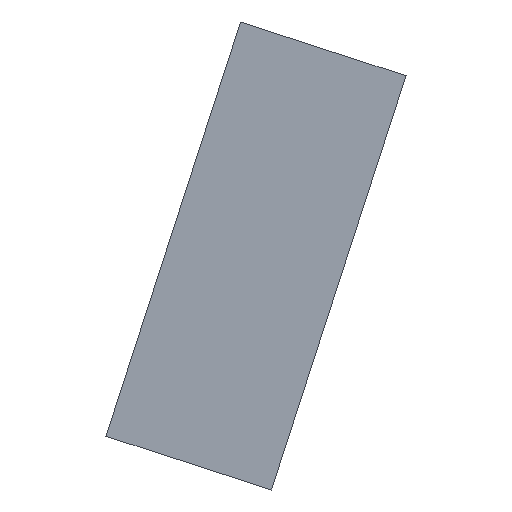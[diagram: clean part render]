
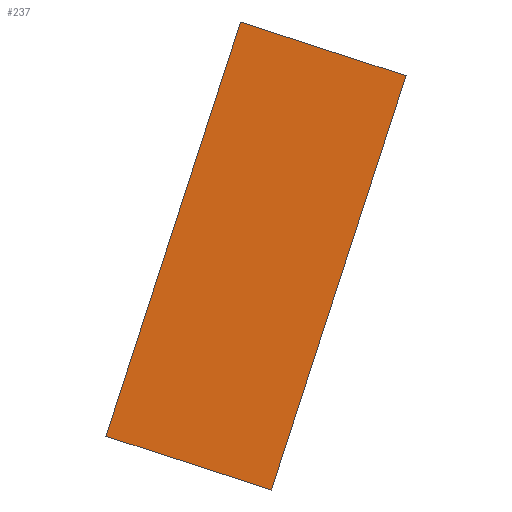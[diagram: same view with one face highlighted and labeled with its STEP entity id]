
A CAD part, front view. The second image highlights one B-rep face of the part: STEP entity #237.
In plain terms, the highlighted planar face has unit normal (0, -1, 0).
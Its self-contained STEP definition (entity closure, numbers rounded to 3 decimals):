
#21 = EDGE_CURVE('',#22,#24,#26,.T.);
#22 = VERTEX_POINT('',#23);
#23 = CARTESIAN_POINT('',(-7.887,-48.,44.519));
#24 = VERTEX_POINT('',#25);
#25 = CARTESIAN_POINT('',(1.384,-48.,73.051));
#26 = SURFACE_CURVE('',#27,(#31,#43),.PCURVE_S1.);
#27 = LINE('',#28,#29);
#28 = CARTESIAN_POINT('',(-7.887,-48.,44.519));
#29 = VECTOR('',#30,1.);
#30 = DIRECTION('',(0.309,0.,0.951));
#31 = PCURVE('',#32,#37);
#32 = PLANE('',#33);
#33 = AXIS2_PLACEMENT_3D('',#34,#35,#36);
#34 = CARTESIAN_POINT('',(-7.887,-48.,44.519));
#35 = DIRECTION('',(0.951,0.,-0.309));
#36 = DIRECTION('',(0.309,0.,0.951));
#37 = DEFINITIONAL_REPRESENTATION('',(#38),#42);
#38 = LINE('',#39,#40);
#39 = CARTESIAN_POINT('',(0.,0.));
#40 = VECTOR('',#41,1.);
#41 = DIRECTION('',(1.,0.));
#42 = ( GEOMETRIC_REPRESENTATION_CONTEXT(2) 
PARAMETRIC_REPRESENTATION_CONTEXT() REPRESENTATION_CONTEXT('2D SPACE',''
  ) );
#43 = PCURVE('',#44,#49);
#44 = PLANE('',#45);
#45 = AXIS2_PLACEMENT_3D('',#46,#47,#48);
#46 = CARTESIAN_POINT('',(-7.887,-48.,44.519));
#47 = DIRECTION('',(0.,1.,0.));
#48 = DIRECTION('',(0.309,0.,0.951));
#49 = DEFINITIONAL_REPRESENTATION('',(#50),#54);
#50 = LINE('',#51,#52);
#51 = CARTESIAN_POINT('',(0.,0.));
#52 = VECTOR('',#53,1.);
#53 = DIRECTION('',(1.,0.));
#54 = ( GEOMETRIC_REPRESENTATION_CONTEXT(2) 
PARAMETRIC_REPRESENTATION_CONTEXT() REPRESENTATION_CONTEXT('2D SPACE',''
  ) );
#72 = PLANE('',#73);
#73 = AXIS2_PLACEMENT_3D('',#74,#75,#76);
#74 = CARTESIAN_POINT('',(-7.887,-48.,44.519));
#75 = DIRECTION('',(0.309,0.,0.951));
#76 = DIRECTION('',(0.951,0.,-0.309));
#126 = PLANE('',#127);
#127 = AXIS2_PLACEMENT_3D('',#128,#129,#130);
#128 = CARTESIAN_POINT('',(1.384,-48.,73.051));
#129 = DIRECTION('',(0.309,0.,0.951));
#130 = DIRECTION('',(0.951,0.,-0.309));
#141 = EDGE_CURVE('',#142,#144,#146,.T.);
#142 = VERTEX_POINT('',#143);
#143 = CARTESIAN_POINT('',(3.526,-48.,40.811));
#144 = VERTEX_POINT('',#145);
#145 = CARTESIAN_POINT('',(12.797,-48.,69.343));
#146 = SURFACE_CURVE('',#147,(#151,#163),.PCURVE_S1.);
#147 = LINE('',#148,#149);
#148 = CARTESIAN_POINT('',(3.526,-48.,40.811));
#149 = VECTOR('',#150,1.);
#150 = DIRECTION('',(0.309,0.,0.951));
#151 = PCURVE('',#152,#157);
#152 = PLANE('',#153);
#153 = AXIS2_PLACEMENT_3D('',#154,#155,#156);
#154 = CARTESIAN_POINT('',(3.526,-48.,40.811));
#155 = DIRECTION('',(0.951,0.,-0.309));
#156 = DIRECTION('',(0.309,0.,0.951));
#157 = DEFINITIONAL_REPRESENTATION('',(#158),#162);
#158 = LINE('',#159,#160);
#159 = CARTESIAN_POINT('',(0.,0.));
#160 = VECTOR('',#161,1.);
#161 = DIRECTION('',(1.,0.));
#162 = ( GEOMETRIC_REPRESENTATION_CONTEXT(2) 
PARAMETRIC_REPRESENTATION_CONTEXT() REPRESENTATION_CONTEXT('2D SPACE',''
  ) );
#163 = PCURVE('',#44,#164);
#164 = DEFINITIONAL_REPRESENTATION('',(#165),#169);
#165 = LINE('',#166,#167);
#166 = CARTESIAN_POINT('',(0.,12.));
#167 = VECTOR('',#168,1.);
#168 = DIRECTION('',(1.,0.));
#169 = ( GEOMETRIC_REPRESENTATION_CONTEXT(2) 
PARAMETRIC_REPRESENTATION_CONTEXT() REPRESENTATION_CONTEXT('2D SPACE',''
  ) );
#237 = ADVANCED_FACE('',(#238),#44,.F.);
#238 = FACE_BOUND('',#239,.F.);
#239 = EDGE_LOOP('',(#240,#261,#262,#283));
#240 = ORIENTED_EDGE('',*,*,#241,.F.);
#241 = EDGE_CURVE('',#22,#142,#242,.T.);
#242 = SURFACE_CURVE('',#243,(#247,#254),.PCURVE_S1.);
#243 = LINE('',#244,#245);
#244 = CARTESIAN_POINT('',(-7.887,-48.,44.519));
#245 = VECTOR('',#246,1.);
#246 = DIRECTION('',(0.951,0.,-0.309));
#247 = PCURVE('',#44,#248);
#248 = DEFINITIONAL_REPRESENTATION('',(#249),#253);
#249 = LINE('',#250,#251);
#250 = CARTESIAN_POINT('',(0.,0.));
#251 = VECTOR('',#252,1.);
#252 = DIRECTION('',(0.,1.));
#253 = ( GEOMETRIC_REPRESENTATION_CONTEXT(2) 
PARAMETRIC_REPRESENTATION_CONTEXT() REPRESENTATION_CONTEXT('2D SPACE',''
  ) );
#254 = PCURVE('',#72,#255);
#255 = DEFINITIONAL_REPRESENTATION('',(#256),#260);
#256 = LINE('',#257,#258);
#257 = CARTESIAN_POINT('',(0.,0.));
#258 = VECTOR('',#259,1.);
#259 = DIRECTION('',(1.,0.));
#260 = ( GEOMETRIC_REPRESENTATION_CONTEXT(2) 
PARAMETRIC_REPRESENTATION_CONTEXT() REPRESENTATION_CONTEXT('2D SPACE',''
  ) );
#261 = ORIENTED_EDGE('',*,*,#21,.T.);
#262 = ORIENTED_EDGE('',*,*,#263,.T.);
#263 = EDGE_CURVE('',#24,#144,#264,.T.);
#264 = SURFACE_CURVE('',#265,(#269,#276),.PCURVE_S1.);
#265 = LINE('',#266,#267);
#266 = CARTESIAN_POINT('',(1.384,-48.,73.051));
#267 = VECTOR('',#268,1.);
#268 = DIRECTION('',(0.951,0.,-0.309));
#269 = PCURVE('',#44,#270);
#270 = DEFINITIONAL_REPRESENTATION('',(#271),#275);
#271 = LINE('',#272,#273);
#272 = CARTESIAN_POINT('',(30.,0.));
#273 = VECTOR('',#274,1.);
#274 = DIRECTION('',(0.,1.));
#275 = ( GEOMETRIC_REPRESENTATION_CONTEXT(2) 
PARAMETRIC_REPRESENTATION_CONTEXT() REPRESENTATION_CONTEXT('2D SPACE',''
  ) );
#276 = PCURVE('',#126,#277);
#277 = DEFINITIONAL_REPRESENTATION('',(#278),#282);
#278 = LINE('',#279,#280);
#279 = CARTESIAN_POINT('',(0.,0.));
#280 = VECTOR('',#281,1.);
#281 = DIRECTION('',(1.,0.));
#282 = ( GEOMETRIC_REPRESENTATION_CONTEXT(2) 
PARAMETRIC_REPRESENTATION_CONTEXT() REPRESENTATION_CONTEXT('2D SPACE',''
  ) );
#283 = ORIENTED_EDGE('',*,*,#141,.F.);
